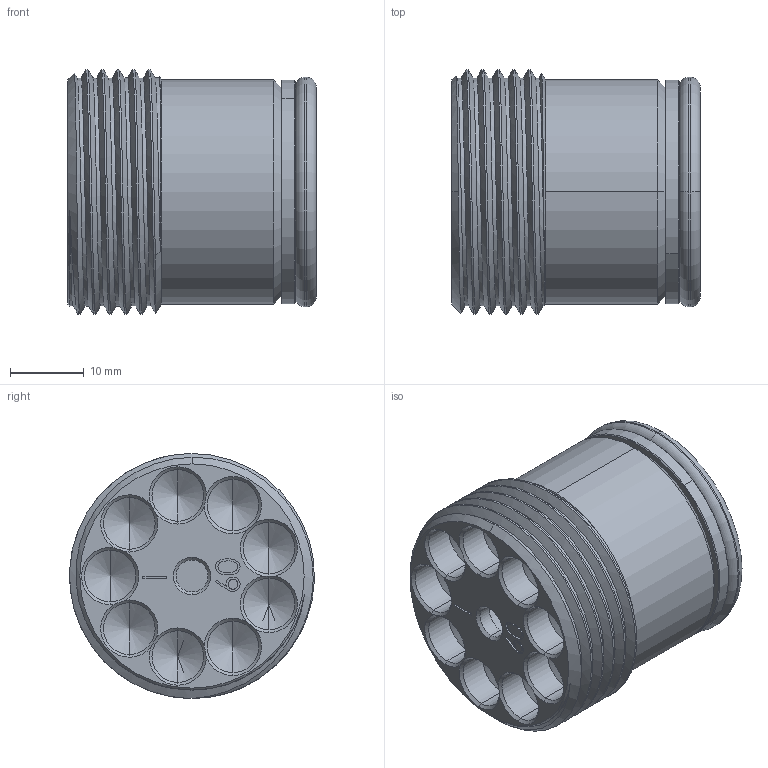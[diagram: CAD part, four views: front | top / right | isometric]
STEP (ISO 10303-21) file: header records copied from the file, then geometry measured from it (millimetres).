
FILE_DESCRIPTION (( 'STEP AP214' ), '1' );
FILE_NAME ('ICT-B-16-N60.STEP', '2026-02-12T17:01:54', ( '' ), ( '' ), 'SwSTEP 2.0', 'SolidWorks 2025', '' );
FILE_SCHEMA (( 'AUTOMOTIVE_DESIGN' ));
Length unit declared in the file: inch
Products named in the file (1): ICT-B-16-N60
Bounding box: 33.73 x 33.25 x 33.27 mm (x, y, z)
Volume: 15472.2 mm3; surface area: 10294.8 mm2
Topology: 1 solids, 2 shells, 177 faces, 438 edges, 260 vertices
Faces by surface type: cone 63, cylinder 51, plane 26, bspline 21, torus 14, sphere 2
Entity records: 8096 total; most frequent: CARTESIAN_POINT 4107, DIRECTION 832, ORIENTED_EDGE 830, EDGE_CURVE 415, AXIS2_PLACEMENT_3D 340, VERTEX_POINT 257, EDGE_LOOP 194, CIRCLE 183
